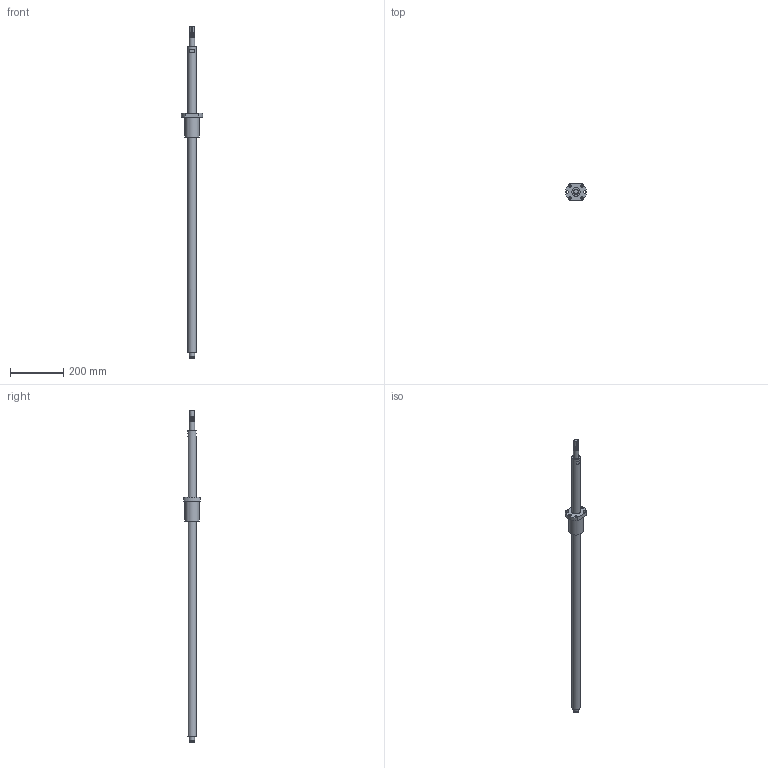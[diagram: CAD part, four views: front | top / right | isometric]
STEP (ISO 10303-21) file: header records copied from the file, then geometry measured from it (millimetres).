
FILE_DESCRIPTION(/* description */ (''),/* implementation_level */ '2;1');
FILE_NAME(/* name */ 'BSG436_asm1.stp',/* time_stamp */ '2017-01-12T15:52:48+08:00',/* author */ (''),/* organization */ (''),/* preprocessor_version */ 'ST-DEVELOPER v15',/* originating_system */ 'SIEMENS PLM Software NX 8.5',/* authorisation */ '');
FILE_SCHEMA (('AUTOMOTIVE_DESIGN { 1 0 10303 214 3 1 1 1 }'));
Length unit declared in the file: millimetre
Products named in the file (3): 01; BSG436; BSG436_asm1
Assembly tree (2 placements, depth 2):
  BSG436_asm1
    BSG436
    01
Bounding box: 79.74 x 62 x 1250 mm (x, y, z)
Volume: 1107264.8 mm3; surface area: 158278 mm2
Topology: 2 solids, 2 shells, 51 faces, 123 edges, 84 vertices
Faces by surface type: cylinder 24, plane 23, bspline 2, cone 2
Full cylindrical faces by diameter (mm): 9 x6, 17 x1, 19 x1, 20 x8, 32 x2, 53 x1
Entity records: 2679 total; most frequent: CARTESIAN_POINT 1653, DIRECTION 202, ORIENTED_EDGE 162, AXIS2_PLACEMENT_3D 87, EDGE_LOOP 82, EDGE_CURVE 81, VERTEX_POINT 63, FACE_BOUND 60
